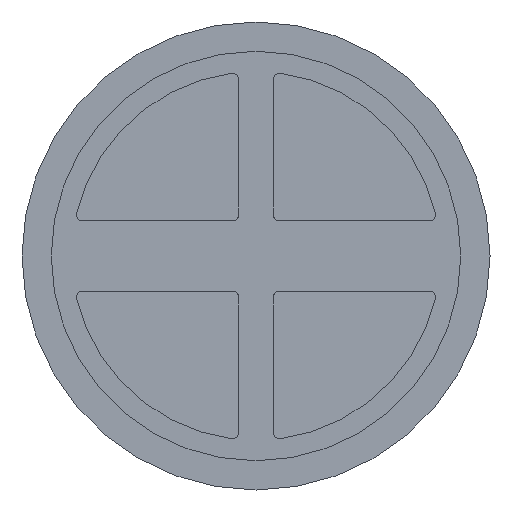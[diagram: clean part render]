
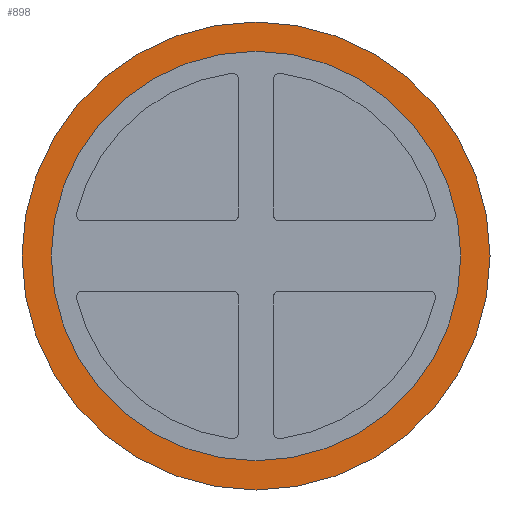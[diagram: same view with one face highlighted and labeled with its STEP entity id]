
A CAD part, front view. The second image highlights one B-rep face of the part: STEP entity #898.
In plain terms, the highlighted planar face has unit normal (0, -1, 0).
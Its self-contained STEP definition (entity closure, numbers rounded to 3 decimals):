
#55 = DIRECTION ( 'NONE',  ( 0., 0., 1. ) ) ;
#78 = EDGE_LOOP ( 'NONE', ( #1973, #203 ) ) ;
#177 = AXIS2_PLACEMENT_3D ( 'NONE', #3196, #2859, #2195 ) ;
#200 = CARTESIAN_POINT ( 'NONE',  ( 0., 2., -35. ) ) ;
#203 = ORIENTED_EDGE ( 'NONE', *, *, #1588, .T. ) ;
#247 = EDGE_LOOP ( 'NONE', ( #2831, #2487 ) ) ;
#496 = DIRECTION ( 'NONE',  ( 0., 0., 1. ) ) ;
#542 = CIRCLE ( 'NONE', #1238, 40. ) ;
#767 = AXIS2_PLACEMENT_3D ( 'NONE', #2930, #2913, #55 ) ;
#773 = DIRECTION ( 'NONE',  ( 0., 0., 1. ) ) ;
#879 = EDGE_CURVE ( 'NONE', #2238, #1995, #542, .T. ) ;
#898 = ADVANCED_FACE ( 'NONE', ( #2318, #1828 ), #2357, .F. ) ;
#937 = CIRCLE ( 'NONE', #1256, 40. ) ;
#962 = CARTESIAN_POINT ( 'NONE',  ( 0., 2., -40. ) ) ;
#991 = DIRECTION ( 'NONE',  ( 0., 1., 0. ) ) ;
#1014 = CARTESIAN_POINT ( 'NONE',  ( 0., 2., 0. ) ) ;
#1148 = EDGE_CURVE ( 'NONE', #2190, #1476, #3016, .T. ) ;
#1238 = AXIS2_PLACEMENT_3D ( 'NONE', #1014, #991, #773 ) ;
#1256 = AXIS2_PLACEMENT_3D ( 'NONE', #2410, #2618, #496 ) ;
#1357 = CARTESIAN_POINT ( 'NONE',  ( 0., 2., 40. ) ) ;
#1476 = VERTEX_POINT ( 'NONE', #2110 ) ;
#1588 = EDGE_CURVE ( 'NONE', #1476, #2190, #3028, .T. ) ;
#1828 = FACE_OUTER_BOUND ( 'NONE', #247, .T. ) ;
#1973 = ORIENTED_EDGE ( 'NONE', *, *, #1148, .T. ) ;
#1995 = VERTEX_POINT ( 'NONE', #1357 ) ;
#2110 = CARTESIAN_POINT ( 'NONE',  ( 0., 2., 35. ) ) ;
#2142 = AXIS2_PLACEMENT_3D ( 'NONE', #2723, #3238, #2197 ) ;
#2190 = VERTEX_POINT ( 'NONE', #200 ) ;
#2195 = DIRECTION ( 'NONE',  ( 0., 0., 1. ) ) ;
#2197 = DIRECTION ( 'NONE',  ( 0., 0., 1. ) ) ;
#2238 = VERTEX_POINT ( 'NONE', #962 ) ;
#2318 = FACE_BOUND ( 'NONE', #78, .T. ) ;
#2357 = PLANE ( 'NONE',  #2142 ) ;
#2410 = CARTESIAN_POINT ( 'NONE',  ( 0., 2., 0. ) ) ;
#2487 = ORIENTED_EDGE ( 'NONE', *, *, #2756, .F. ) ;
#2618 = DIRECTION ( 'NONE',  ( 0., 1., 0. ) ) ;
#2723 = CARTESIAN_POINT ( 'NONE',  ( 0., 2., 0. ) ) ;
#2756 = EDGE_CURVE ( 'NONE', #1995, #2238, #937, .T. ) ;
#2831 = ORIENTED_EDGE ( 'NONE', *, *, #879, .F. ) ;
#2859 = DIRECTION ( 'NONE',  ( 0., 1., 0. ) ) ;
#2913 = DIRECTION ( 'NONE',  ( 0., 1., 0. ) ) ;
#2930 = CARTESIAN_POINT ( 'NONE',  ( 0., 2., 0. ) ) ;
#3016 = CIRCLE ( 'NONE', #767, 35. ) ;
#3028 = CIRCLE ( 'NONE', #177, 35. ) ;
#3196 = CARTESIAN_POINT ( 'NONE',  ( 0., 2., 0. ) ) ;
#3238 = DIRECTION ( 'NONE',  ( 0., 1., 0. ) ) ;
